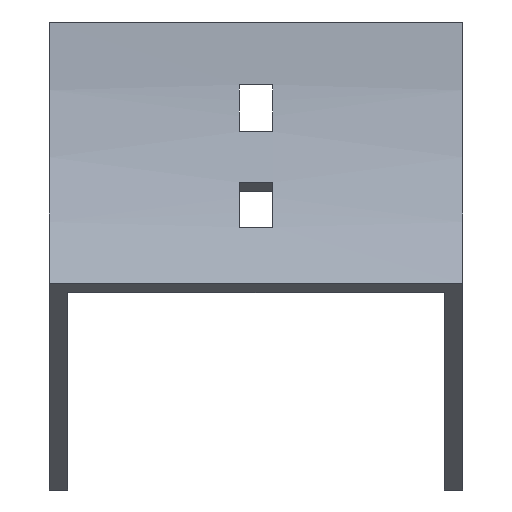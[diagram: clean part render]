
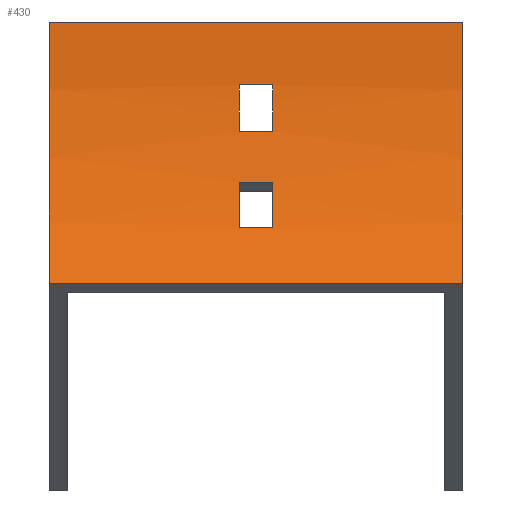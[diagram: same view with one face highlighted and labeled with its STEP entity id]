
A CAD part, front view. The second image highlights one B-rep face of the part: STEP entity #430.
In plain terms, the highlighted cylindrical face has radius 100 mm (diameter 200 mm), a partial arc.
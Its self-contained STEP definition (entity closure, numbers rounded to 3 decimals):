
#13 = VERTEX_POINT ( 'NONE', #1458 ) ;
#14 = CYLINDRICAL_SURFACE ( 'NONE', #1329, 100. ) ;
#24 = DIRECTION ( 'NONE',  ( 1., 0., 0. ) ) ;
#35 = EDGE_CURVE ( 'NONE', #123, #1631, #706, .T. ) ;
#68 = ORIENTED_EDGE ( 'NONE', *, *, #658, .F. ) ;
#80 = CARTESIAN_POINT ( 'NONE',  ( 39.5, -13.397, -50. ) ) ;
#118 = DIRECTION ( 'NONE',  ( 1., 0., 0. ) ) ;
#122 = DIRECTION ( 'NONE',  ( -1., 0., 0. ) ) ;
#123 = VERTEX_POINT ( 'NONE', #1254 ) ;
#127 = ORIENTED_EDGE ( 'NONE', *, *, #1406, .T. ) ;
#177 = ORIENTED_EDGE ( 'NONE', *, *, #805, .F. ) ;
#189 = AXIS2_PLACEMENT_3D ( 'NONE', #264, #24, #550 ) ;
#197 = DIRECTION ( 'NONE',  ( 0., 0., 1. ) ) ;
#210 = CIRCLE ( 'NONE', #441, 100. ) ;
#214 = CARTESIAN_POINT ( 'NONE',  ( 39.5, -4.829, -30.699 ) ) ;
#235 = CARTESIAN_POINT ( 'NONE',  ( 3.25, -4.829, -30.699 ) ) ;
#252 = ORIENTED_EDGE ( 'NONE', *, *, #1165, .T. ) ;
#264 = CARTESIAN_POINT ( 'NONE',  ( -3.25, -100., 0. ) ) ;
#277 = ORIENTED_EDGE ( 'NONE', *, *, #828, .T. ) ;
#279 = DIRECTION ( 'NONE',  ( -1., 0., 0. ) ) ;
#289 = DIRECTION ( 'NONE',  ( 0., 0., 1. ) ) ;
#303 = EDGE_CURVE ( 'NONE', #13, #751, #663, .T. ) ;
#371 = DIRECTION ( 'NONE',  ( 1., 0., 0. ) ) ;
#398 = CARTESIAN_POINT ( 'NONE',  ( 3.25, -100., 0. ) ) ;
#412 = VECTOR ( 'NONE', #371, 1000. ) ;
#430 = ADVANCED_FACE ( 'NONE', ( #1194, #1612, #1594 ), #14, .F. ) ;
#441 = AXIS2_PLACEMENT_3D ( 'NONE', #398, #918, #1440 ) ;
#458 = ORIENTED_EDGE ( 'NONE', *, *, #838, .F. ) ;
#486 = EDGE_CURVE ( 'NONE', #843, #123, #1170, .T. ) ;
#541 = DIRECTION ( 'NONE',  ( -1., 0., 0. ) ) ;
#550 = DIRECTION ( 'NONE',  ( 0., 0., 1. ) ) ;
#557 = CARTESIAN_POINT ( 'NONE',  ( 39.5, -13.397, -50. ) ) ;
#562 = ORIENTED_EDGE ( 'NONE', *, *, #35, .T. ) ;
#575 = CARTESIAN_POINT ( 'NONE',  ( -39.5, -13.397, -50. ) ) ;
#614 = CARTESIAN_POINT ( 'NONE',  ( -39.5, -100., 0. ) ) ;
#618 = CARTESIAN_POINT ( 'NONE',  ( -3.25, -8.023, -39.246 ) ) ;
#623 = VECTOR ( 'NONE', #118, 1000. ) ;
#652 = AXIS2_PLACEMENT_3D ( 'NONE', #1518, #1091, #1241 ) ;
#657 = CARTESIAN_POINT ( 'NONE',  ( 3.25, -0.723, -12. ) ) ;
#658 = EDGE_CURVE ( 'NONE', #1566, #13, #1558, .T. ) ;
#659 = VECTOR ( 'NONE', #1325, 1000. ) ;
#663 = CIRCLE ( 'NONE', #690, 100. ) ;
#665 = ORIENTED_EDGE ( 'NONE', *, *, #486, .T. ) ;
#680 = VECTOR ( 'NONE', #279, 1000. ) ;
#690 = AXIS2_PLACEMENT_3D ( 'NONE', #1549, #1433, #1295 ) ;
#696 = DIRECTION ( 'NONE',  ( -1., 0., 0. ) ) ;
#697 = CARTESIAN_POINT ( 'NONE',  ( -3.25, -2.23, -21. ) ) ;
#699 = EDGE_LOOP ( 'NONE', ( #1261, #68, #1394, #1401 ) ) ;
#706 = LINE ( 'NONE', #1069, #659 ) ;
#729 = CIRCLE ( 'NONE', #189, 100. ) ;
#734 = VERTEX_POINT ( 'NONE', #879 ) ;
#751 = VERTEX_POINT ( 'NONE', #618 ) ;
#767 = VERTEX_POINT ( 'NONE', #1322 ) ;
#805 = EDGE_CURVE ( 'NONE', #1007, #957, #812, .T. ) ;
#812 = LINE ( 'NONE', #557, #976 ) ;
#828 = EDGE_CURVE ( 'NONE', #1407, #1014, #1610, .T. ) ;
#838 = EDGE_CURVE ( 'NONE', #1407, #1007, #927, .T. ) ;
#843 = VERTEX_POINT ( 'NONE', #657 ) ;
#864 = EDGE_CURVE ( 'NONE', #1631, #734, #729, .T. ) ;
#879 = CARTESIAN_POINT ( 'NONE',  ( -3.25, -0.723, -12. ) ) ;
#918 = DIRECTION ( 'NONE',  ( 1., 0., 0. ) ) ;
#927 = CIRCLE ( 'NONE', #1446, 100. ) ;
#934 = CARTESIAN_POINT ( 'NONE',  ( 39.5, -100., 0. ) ) ;
#942 = CARTESIAN_POINT ( 'NONE',  ( 39.5, 0., 0. ) ) ;
#949 = DIRECTION ( 'NONE',  ( -1., 0., 0. ) ) ;
#957 = VERTEX_POINT ( 'NONE', #575 ) ;
#976 = VECTOR ( 'NONE', #541, 1000. ) ;
#1007 = VERTEX_POINT ( 'NONE', #80 ) ;
#1009 = LINE ( 'NONE', #1278, #412 ) ;
#1014 = VERTEX_POINT ( 'NONE', #1122 ) ;
#1026 = VECTOR ( 'NONE', #122, 1000. ) ;
#1069 = CARTESIAN_POINT ( 'NONE',  ( 39.5, -2.23, -21. ) ) ;
#1071 = EDGE_LOOP ( 'NONE', ( #562, #1680, #252, #665 ) ) ;
#1091 = DIRECTION ( 'NONE',  ( -1., 0., 0. ) ) ;
#1122 = CARTESIAN_POINT ( 'NONE',  ( -39.5, 0., 0. ) ) ;
#1132 = CARTESIAN_POINT ( 'NONE',  ( 39.5, 0., 0. ) ) ;
#1165 = EDGE_CURVE ( 'NONE', #734, #843, #1009, .T. ) ;
#1170 = CIRCLE ( 'NONE', #652, 100. ) ;
#1194 = FACE_OUTER_BOUND ( 'NONE', #1215, .T. ) ;
#1215 = EDGE_LOOP ( 'NONE', ( #127, #177, #458, #277 ) ) ;
#1222 = DIRECTION ( 'NONE',  ( -1., 0., 0. ) ) ;
#1241 = DIRECTION ( 'NONE',  ( 0., 0., -1. ) ) ;
#1254 = CARTESIAN_POINT ( 'NONE',  ( 3.25, -2.23, -21. ) ) ;
#1261 = ORIENTED_EDGE ( 'NONE', *, *, #303, .F. ) ;
#1278 = CARTESIAN_POINT ( 'NONE',  ( 39.5, -0.723, -12. ) ) ;
#1295 = DIRECTION ( 'NONE',  ( 0., 0., -1. ) ) ;
#1322 = CARTESIAN_POINT ( 'NONE',  ( 3.25, -8.023, -39.246 ) ) ;
#1325 = DIRECTION ( 'NONE',  ( -1., 0., 0. ) ) ;
#1329 = AXIS2_PLACEMENT_3D ( 'NONE', #1464, #696, #289 ) ;
#1333 = CIRCLE ( 'NONE', #1557, 100. ) ;
#1394 = ORIENTED_EDGE ( 'NONE', *, *, #1520, .F. ) ;
#1401 = ORIENTED_EDGE ( 'NONE', *, *, #1514, .F. ) ;
#1406 = EDGE_CURVE ( 'NONE', #1014, #957, #1333, .T. ) ;
#1407 = VERTEX_POINT ( 'NONE', #1132 ) ;
#1433 = DIRECTION ( 'NONE',  ( -1., 0., 0. ) ) ;
#1434 = LINE ( 'NONE', #1569, #623 ) ;
#1440 = DIRECTION ( 'NONE',  ( 0., 0., 1. ) ) ;
#1446 = AXIS2_PLACEMENT_3D ( 'NONE', #934, #949, #1454 ) ;
#1454 = DIRECTION ( 'NONE',  ( 0., 0., 1. ) ) ;
#1458 = CARTESIAN_POINT ( 'NONE',  ( -3.25, -4.829, -30.699 ) ) ;
#1464 = CARTESIAN_POINT ( 'NONE',  ( 39.5, -100., 0. ) ) ;
#1514 = EDGE_CURVE ( 'NONE', #751, #767, #1434, .T. ) ;
#1518 = CARTESIAN_POINT ( 'NONE',  ( 3.25, -100., 0. ) ) ;
#1520 = EDGE_CURVE ( 'NONE', #767, #1566, #210, .T. ) ;
#1549 = CARTESIAN_POINT ( 'NONE',  ( -3.25, -100., 0. ) ) ;
#1557 = AXIS2_PLACEMENT_3D ( 'NONE', #614, #1222, #197 ) ;
#1558 = LINE ( 'NONE', #214, #1026 ) ;
#1566 = VERTEX_POINT ( 'NONE', #235 ) ;
#1569 = CARTESIAN_POINT ( 'NONE',  ( 39.5, -8.023, -39.246 ) ) ;
#1594 = FACE_BOUND ( 'NONE', #699, .T. ) ;
#1610 = LINE ( 'NONE', #942, #680 ) ;
#1612 = FACE_BOUND ( 'NONE', #1071, .T. ) ;
#1631 = VERTEX_POINT ( 'NONE', #697 ) ;
#1680 = ORIENTED_EDGE ( 'NONE', *, *, #864, .T. ) ;
